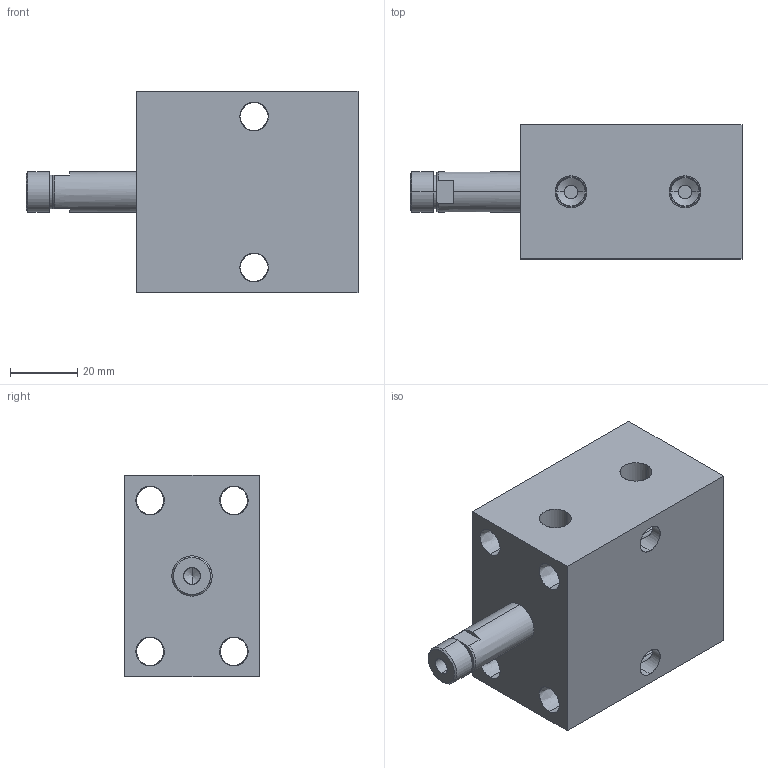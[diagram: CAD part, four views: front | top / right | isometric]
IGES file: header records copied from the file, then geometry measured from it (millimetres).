
Start section: SolidWorks IGES file using analytic representation for surfaces
Global section: file name: D:\Rajib\standards\BLOCK CYLINDER HYDRAULIC\0101-0106\0104.IGS; native system: SolidWorks 2007; preprocessor: SolidWorks 2007; author: rajib; date: 110117.094903; units: millimetre
Bounding box: 99 x 40 x 60 mm (x, y, z)
Surface area: 28026.8 mm2 (no closed solid volume)
Topology: 0 solids, 0 shells, 80 faces, 1748 edges, 1746 vertices
Faces by surface type: revolution 60, bspline 20
